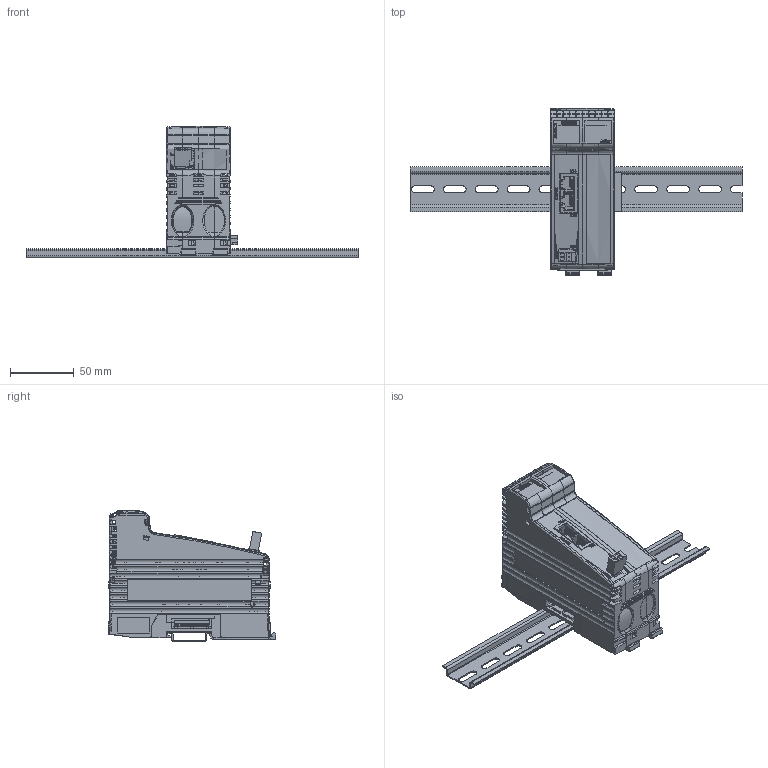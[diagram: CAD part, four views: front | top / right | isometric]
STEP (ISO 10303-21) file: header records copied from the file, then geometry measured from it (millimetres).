
FILE_DESCRIPTION(/* description */ ('FG'),/* implementation_level */ '2;1');
FILE_NAME(/* name */ 'FG_JX3-BN-ETH_001_01',/* time_stamp */ '2016-06-27T09:40:35+02:00',/* author */ ('T. Busch'),/* organization */ ('Jetter AG'),/* preprocessor_version */ 'ST-DEVELOPER v16.7',/* originating_system */ 'DEX',/* authorisation */ $);
FILE_SCHEMA (('AUTOMOTIVE_DESIGN {1 0 10303 214 3 1 1}'));
Products named in the file (25): FG_JX3-BN-ETH_001_01; GE_JX3-BN-ETH_001_00; Sw-LI_JX3_001_00; PCBY_JX3-BN-SW_009_02; PCB_JX3-BN-SW_009_02; BU_RJ45_LED_GRGE_2X; ST_02_E_WI_RM3_5_A; BL_JX3-BN-ETH_018_00; Sw-RE_JX3_001_00; FO_JX3-BN-ETH_001_00; BL_JXX_001_01; BL_JX3_001_01; FO_JX3-Lichtgrau_001_00; PCBY_JX3-BN-ETH_010_00; PCB_JX3-BN-ETH_010_00; BOY_JX3-BP_A1_002_00; PCBY_JX3-BP-BN50_001_00; PCB_JX3-BP-BN50_001_00; ST_10_E_WI_RM2_54; BO_JX3_001_01; DE_JX3_001_00; BO_JX3_002_01; KT_Din_Schiene_Niedrig; Bc_Weidmüller_001; BLZF_3_5_2_SN_SW_1690420000
Assembly tree (34 placements, depth 4):
  FG_JX3-BN-ETH_001_01
    GE_JX3-BN-ETH_001_00
      Sw-LI_JX3_001_00
      PCBY_JX3-BN-SW_009_02
        PCB_JX3-BN-SW_009_02
        BU_RJ45_LED_GRGE_2X
        ST_02_E_WI_RM3_5_A
      BL_JX3-BN-ETH_018_00
      Sw-RE_JX3_001_00
      FO_JX3-BN-ETH_001_00
      BL_JXX_001_01
      BL_JX3_001_01
      FO_JX3-Lichtgrau_001_00
      PCBY_JX3-BN-ETH_010_00
        PCB_JX3-BN-ETH_010_00
    BOY_JX3-BP_A1_002_00
      PCBY_JX3-BP-BN50_001_00
        PCB_JX3-BP-BN50_001_00
        ST_10_E_WI_RM2_54
      BO_JX3_001_01
      DE_JX3_001_00  x2
      BO_JX3_002_01
    KT_Din_Schiene_Niedrig
    Bc_Weidmüller_001  x10
    BLZF_3_5_2_SN_SW_1690420000
Bounding box: 260 x 131.39 x 103.36 mm (x, y, z)
Volume: 150104 mm3; surface area: 198882.5 mm2
Topology: 35 solids, 39 shells, 6498 faces, 18052 edges, 11598 vertices
Faces by surface type: plane 4508, cylinder 1246, cone 313, bspline 285, sphere 120, torus 26
Full cylindrical faces by diameter (mm): 0.2 x64, 0.25 x17, 0.3 x168, 0.4 x108, 0.5 x18, 0.8 x20, 0.9 x24, 1 x9, 1.2 x1, 1.5 x2, 1.8 x5, 2.2 x3, 2.5 x1, 3.3 x4, 3.4 x2
Entity records: 206224 total; most frequent: CARTESIAN_POINT 48895, ORIENTED_EDGE 30906, DIRECTION 28402, EDGE_CURVE 15453, LINE 11776, VECTOR 11776, VERTEX_POINT 10447, AXIS2_PLACEMENT_3D 8313
